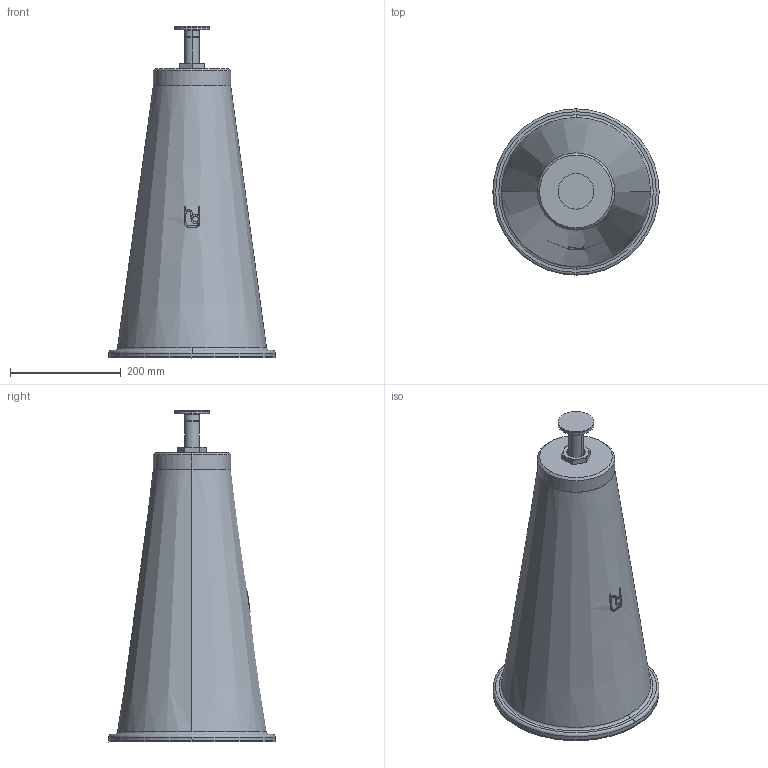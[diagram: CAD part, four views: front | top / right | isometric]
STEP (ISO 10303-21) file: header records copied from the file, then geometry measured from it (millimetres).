
FILE_DESCRIPTION(('STEP AP214'),'1');
FILE_NAME('RSRFC-05-V1.stp','2018-06-27T10:59:29',(' '),(' '),'Spatial InterOp 3D',' ',' ');
FILE_SCHEMA(('automotive_design'));
Length unit declared in the file: millimetre
Products named in the file (6): 1; 2; 3; 4; 5; 6
Bounding box: 300 x 300 x 599.11 mm (x, y, z)
Volume: 17908096 mm3; surface area: 645912 mm2
Topology: 6 solids, 6 shells, 107 faces, 260 edges, 170 vertices
Faces by surface type: plane 41, cylinder 35, cone 23, torus 8
Entity records: 4705 total; most frequent: CARTESIAN_POINT 1205, DIRECTION 541, ORIENTED_EDGE 520, EDGE_CURVE 260, AXIS2_PLACEMENT_3D 216, VERTEX_POINT 170, EDGE_LOOP 114, STYLED_ITEM 113
